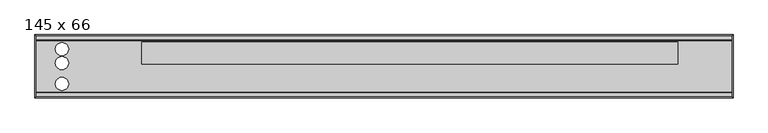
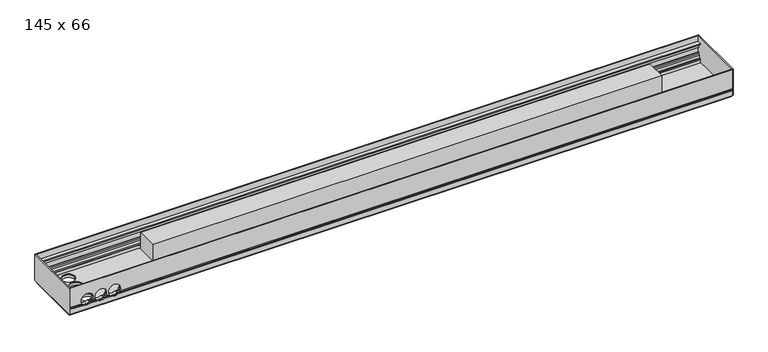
"""IFC4 building model written with IfcOpenShell, lengths in millimetres: proxy geometry, Mohlenhof_Внутрипольный конвектор_QSKM : 145 x 66."""

from ifc_helpers import new_model, si_unit, point, frame, frame_2d, origin, place, context, project, spatial, polyline, circle_curve, ellipse_curve, trimmed, segment, composite_curve, outline, extrude, source, transform, mapped, element, save
from ifc_brep_helpers import plane_surface, revolved_surface, advanced_brep


def proxy_145_x_66_7399c8b9(model_context):
    return source(origin(), model_context, "Body", "SolidModel", [
        advanced_brep(
        [(798.0, -245.0, -48.5473602), (798.0, -243.5, -49.2468216), (798.0, -242.5, -49.2468216), (798.0, -242.5, -46.0008038), (798.0, -240.0, -46.0008038), (798.0, -240.0, -56.5008038), (798.0, -242.5, -56.5008038), (798.0, -242.5, -53.2468216), (798.0, -243.5, -53.2468216), (798.0, -245.0, -53.9462831), (798.0, -245.0, -66.5), (798.0, -241.0, -66.5), (798.0, -241.0, -65.2), (798.0, -243.0, -65.2), (798.0, -243.0, -62.5), (798.0, -232.0, -62.5), (798.0, -232.0, -54.9172677), (798.0, -233.4172677, -53.5), (798.0, -237.0, -53.5), (798.0, -237.0, -45.91), (798.0, -239.0, -43.91), (798.0, -239.0, -39.5), (798.0, -240.0, -39.5), (798.0, -240.0, -43.5), (798.0, -242.4956439, -43.5), (798.0, -242.4956439, -23.0), (798.0, -240.0, -23.0), (798.0, -240.0, -27.0), (798.0, -239.0, -27.0), (798.0, -239.0, -17.0), (798.0, -233.3956439, -17.0), (798.0, -233.3956439, -15.0), (798.0, -243.4, -15.0), (798.0, -243.4, 0.0), (798.0, -245.0, 0.0), (-798.0, -245.0, -48.5473602), (-798.0, -245.0, 0.0), (-798.0, -243.4, 0.0), (-798.0, -243.4, -15.0), (-798.0, -233.3956439, -15.0), (-798.0, -233.3956439, -17.0), (-798.0, -239.0, -17.0), (-798.0, -239.0, -27.0), (-798.0, -240.0, -27.0), (-798.0, -240.0, -23.0), (-798.0, -242.4956439, -23.0), (-798.0, -242.4956439, -43.5), (-798.0, -240.0, -43.5), (-798.0, -240.0, -39.5), (-798.0, -239.0, -39.5), (-798.0, -239.0, -43.91), (-798.0, -237.0, -45.91), (-798.0, -237.0, -53.5), (-798.0, -233.4172677, -53.5), (-798.0, -232.0, -54.9172677), (-798.0, -232.0, -62.5), (-798.0, -243.0, -62.5), (-798.0, -243.0, -65.2), (-798.0, -241.0, -65.2), (-798.0, -241.0, -66.5), (-798.0, -245.0, -66.5), (-798.0, -245.0, -53.9462831), (-798.0, -243.5, -53.2468216), (-798.0, -242.5, -53.2468216), (-798.0, -242.5, -56.5008038), (-798.0, -240.0, -56.5008038), (-798.0, -240.0, -46.0008038), (-798.0, -242.5, -46.0008038), (-798.0, -242.5, -49.2468216), (-798.0, -243.5, -49.2468216), (-678.7585985, -245.0, -48.5473602), (-679.155283, -243.5, -49.2468216), (-770.844717, -243.5, -49.2468216), (-771.2414015, -245.0, -48.5473602), (-738.2414015, -245.0, -48.5473602), (-744.7585985, -245.0, -48.5473602), (-745.155283, -243.5, -49.2468216), (-737.844717, -243.5, -49.2468216), (-705.2414015, -245.0, -48.5473602), (-711.7585985, -245.0, -48.5473602), (-712.155283, -243.5, -49.2468216), (-704.844717, -243.5, -49.2468216), (-679.155283, -242.5, -49.2468216), (-770.844717, -242.5, -49.2468216), (-745.155283, -242.5, -49.2468216), (-737.844717, -242.5, -49.2468216), (-712.155283, -242.5, -49.2468216), (-704.844717, -242.5, -49.2468216), (-677.6911648, -242.5, -46.0008038), (-772.3088352, -242.5, -46.0008038), (-743.6911648, -242.5, -46.0008038), (-739.3088352, -242.5, -46.0008038), (-710.6911648, -242.5, -46.0008038), (-706.3088352, -242.5, -46.0008038), (-677.6911648, -240.0, -46.0008038), (-772.3088352, -240.0, -46.0008038), (-743.6911648, -240.0, -46.0008038), (-739.3088352, -240.0, -46.0008038), (-710.6911648, -240.0, -46.0008038), (-706.3088352, -240.0, -46.0008038), (-767.328032, -242.5, -53.2468216), (-748.671968, -242.5, -53.2468216), (-734.328032, -242.5, -53.2468216), (-715.671968, -242.5, -53.2468216), (-701.328032, -242.5, -53.2468216), (-682.671968, -242.5, -53.2468216), (-682.671968, -243.5, -53.2468216), (-767.328032, -243.5, -53.2468216), (-748.671968, -243.5, -53.2468216), (-734.328032, -243.5, -53.2468216), (-715.671968, -243.5, -53.2468216), (-701.328032, -243.5, -53.2468216), (-683.6280208, -245.0, -53.9462831), (-766.3719792, -245.0, -53.9462831), (-749.6280208, -245.0, -53.9462831), (-733.3719792, -245.0, -53.9462831), (-716.6280208, -245.0, -53.9462831), (-700.3719792, -245.0, -53.9462831), (-764.7064841, -232.0, -54.9172677), (-751.2935159, -232.0, -54.9172677), (-731.7064841, -232.0, -54.9172677), (-718.2935159, -232.0, -54.9172677), (-698.7064841, -232.0, -54.9172677), (-685.2935159, -232.0, -54.9172677), (-683.0, -233.4172677, -53.5), (-767.0, -233.4172677, -53.5), (-749.0, -233.4172677, -53.5), (-734.0, -233.4172677, -53.5), (-716.0, -233.4172677, -53.5), (-701.0, -233.4172677, -53.5), (-683.0, -237.0, -53.5), (-767.0, -237.0, -53.5), (-749.0, -237.0, -53.5), (-734.0, -237.0, -53.5), (-716.0, -237.0, -53.5), (-701.0, -237.0, -53.5), (-677.6629187, -237.0, -45.91), (-772.3370813, -237.0, -45.91), (-743.6629187, -237.0, -45.91), (-739.3370813, -237.0, -45.91), (-710.6629187, -237.0, -45.91), (-706.3370813, -237.0, -45.91), (-677.1948691, -239.0, -43.91), (-772.8051309, -239.0, -43.91), (-743.1948691, -239.0, -43.91), (-739.8051309, -239.0, -43.91), (-710.1948691, -239.0, -43.91), (-706.8051309, -239.0, -43.91), (-677.0, -239.0, -41.5), (-677.1339313, -239.0, -39.5), (-772.8660687, -239.0, -39.5), (-773.0, -239.0, -41.5), (-743.0, -239.0, -41.5), (-743.1339313, -239.0, -39.5), (-739.8660687, -239.0, -39.5), (-740.0, -239.0, -41.5), (-710.0, -239.0, -41.5), (-710.1339313, -239.0, -39.5), (-706.8660687, -239.0, -39.5), (-707.0, -239.0, -41.5), (-677.1339313, -240.0, -39.5), (-772.8660687, -240.0, -39.5), (-743.1339313, -240.0, -39.5), (-739.8660687, -240.0, -39.5), (-710.1339313, -240.0, -39.5), (-706.8660687, -240.0, -39.5), (-677.0, -240.0, -41.5), (-677.1339313, -240.0, -43.5), (-772.8660687, -240.0, -43.5), (-773.0, -240.0, -41.5), (-743.0, -240.0, -41.5), (-743.1339313, -240.0, -43.5), (-739.8660687, -240.0, -43.5), (-740.0, -240.0, -41.5), (-710.0, -240.0, -41.5), (-710.1339313, -240.0, -43.5), (-706.8660687, -240.0, -43.5), (-707.0, -240.0, -41.5), (-677.1339313, -242.4956439, -43.5), (-772.8660687, -242.4956439, -43.5), (-743.1339313, -242.4956439, -43.5), (-739.8660687, -242.4956439, -43.5), (-710.1339313, -242.4956439, -43.5), (-706.8660687, -242.4956439, -43.5), (-677.0, -242.4956439, -41.5), (-707.0, -242.4956439, -41.5), (-710.0, -242.4956439, -41.5), (-740.0, -242.4956439, -41.5), (-743.0, -242.4956439, -41.5), (-773.0, -242.4956439, -41.5), (-761.8405729, -240.0, -27.0), (-754.1594271, -240.0, -27.0), (-728.8405729, -240.0, -27.0), (-721.1594271, -240.0, -27.0), (-695.8405729, -240.0, -27.0), (-688.1594271, -240.0, -27.0), (-688.1594271, -239.0, -27.0), (-761.8405729, -239.0, -27.0), (-754.1594271, -239.0, -27.0), (-728.8405729, -239.0, -27.0), (-721.1594271, -239.0, -27.0), (-695.8405729, -239.0, -27.0), (-773.0, -245.0, -41.5), (-743.0, -245.0, -41.5), (-740.0, -245.0, -41.5), (-710.0, -245.0, -41.5), (-707.0, -245.0, -41.5), (-677.0, -245.0, -41.5)],
        [
            (0, 1),
            (1, 2),
            (2, 3),
            (3, 4),
            (4, 5),
            (5, 6),
            (6, 7),
            (7, 8),
            (8, 9),
            (9, 10),
            (10, 11),
            (11, 12),
            (12, 13),
            (13, 14),
            (14, 15),
            (15, 16),
            (16, 17),
            (17, 18),
            (18, 19),
            (19, 20),
            (20, 21),
            (21, 22),
            (22, 23),
            (23, 24),
            (24, 25),
            (25, 26),
            (26, 27),
            (27, 28),
            (28, 29),
            (29, 30),
            (30, 31),
            (31, 32),
            (32, 33),
            (33, 34),
            (34, 0),
            (35, 36),
            (36, 37),
            (37, 38),
            (38, 39),
            (39, 40),
            (40, 41),
            (41, 42),
            (42, 43),
            (43, 44),
            (44, 45),
            (45, 46),
            (46, 47),
            (47, 48),
            (48, 49),
            (49, 50),
            (50, 51),
            (51, 52),
            (52, 53),
            (53, 54),
            (54, 55),
            (55, 56),
            (56, 57),
            (57, 58),
            (58, 59),
            (59, 60),
            (60, 61),
            (61, 62),
            (62, 63),
            (63, 64),
            (64, 65),
            (65, 66),
            (66, 67),
            (67, 68),
            (68, 69),
            (69, 35),
            (0, 70),
            (70, 71, ellipse_curve(frame((-692.0, -260.1131126, -41.5), z_axis=(0.0, 0.42261826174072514, 0.9063077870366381), x_axis=(0.0, -0.9063077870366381, 0.42261826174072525)), 35.4930237, 15.0)),
            (71, 1),
            (69, 72),
            (72, 73, ellipse_curve(frame((-758.0, -260.1131126, -41.5), z_axis=(0.0, 0.42261826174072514, 0.9063077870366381), x_axis=(0.0, -0.9063077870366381, 0.42261826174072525)), 35.4930237, 15.0)),
            (73, 35),
            (74, 75),
            (75, 76, ellipse_curve(frame((-758.0, -260.1131126, -41.5), z_axis=(0.0, 0.42261826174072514, 0.9063077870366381), x_axis=(0.0, -0.9063077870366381, 0.42261826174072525)), 35.4930237, 15.0)),
            (76, 77),
            (77, 74, ellipse_curve(frame((-725.0, -260.1131126, -41.5), z_axis=(0.0, 0.42261826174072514, 0.9063077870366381), x_axis=(0.0, -0.9063077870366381, 0.42261826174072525)), 35.4930237, 15.0)),
            (78, 79),
            (79, 80, ellipse_curve(frame((-725.0, -260.1131126, -41.5), z_axis=(0.0, 0.42261826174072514, 0.9063077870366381), x_axis=(0.0, -0.9063077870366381, 0.42261826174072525)), 35.4930237, 15.0)),
            (80, 81),
            (81, 78, ellipse_curve(frame((-692.0, -260.1131126, -41.5), z_axis=(0.0, 0.42261826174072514, 0.9063077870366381), x_axis=(0.0, -0.9063077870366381, 0.42261826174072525)), 35.4930237, 15.0)),
            (71, 82),
            (82, 2),
            (68, 83),
            (83, 72),
            (76, 84),
            (84, 85),
            (85, 77),
            (80, 86),
            (86, 87),
            (87, 81),
            (82, 88, circle_curve(frame((-692.0, -242.5, -41.5), z_axis=(0.0, -1.0, 0.0), x_axis=(1.0, 0.0, 0.0)), 15.0)),
            (88, 3),
            (67, 89),
            (89, 83, circle_curve(frame((-758.0, -242.5, -41.5), z_axis=(0.0, -1.0, 0.0), x_axis=(1.0, 0.0, 0.0)), 15.0)),
            (84, 90, circle_curve(frame((-758.0, -242.5, -41.5), z_axis=(0.0, -1.0, 0.0), x_axis=(1.0, 0.0, 0.0)), 15.0)),
            (90, 91),
            (91, 85, circle_curve(frame((-725.0, -242.5, -41.5), z_axis=(0.0, -1.0, 0.0), x_axis=(1.0, 0.0, 0.0)), 15.0)),
            (86, 92, circle_curve(frame((-725.0, -242.5, -41.5), z_axis=(0.0, -1.0, 0.0), x_axis=(1.0, 0.0, 0.0)), 15.0)),
            (92, 93),
            (93, 87, circle_curve(frame((-692.0, -242.5, -41.5), z_axis=(0.0, -1.0, 0.0), x_axis=(1.0, 0.0, 0.0)), 15.0)),
            (88, 94),
            (94, 4),
            (66, 95),
            (95, 89),
            (90, 96),
            (96, 97),
            (97, 91),
            (92, 98),
            (98, 99),
            (99, 93),
            (94, 99, circle_curve(frame((-692.0, -240.0, -41.5), z_axis=(0.0, 1.0, 0.0), x_axis=(1.0, 0.0, 0.0)), 15.0)),
            (98, 97, circle_curve(frame((-725.0, -240.0, -41.5), z_axis=(0.0, 1.0, 0.0), x_axis=(1.0, 0.0, 0.0)), 15.0)),
            (96, 95, circle_curve(frame((-758.0, -240.0, -41.5), z_axis=(0.0, 1.0, 0.0), x_axis=(1.0, 0.0, 0.0)), 15.0)),
            (65, 5),
            (64, 6),
            (63, 100),
            (100, 101, circle_curve(frame((-758.0, -242.5, -41.5), z_axis=(0.0, -1.0, 0.0), x_axis=(1.0, 0.0, 0.0)), 15.0)),
            (101, 102),
            (102, 103, circle_curve(frame((-725.0, -242.5, -41.5), z_axis=(0.0, -1.0, 0.0), x_axis=(1.0, 0.0, 0.0)), 15.0)),
            (103, 104),
            (104, 105, circle_curve(frame((-692.0, -242.5, -41.5), z_axis=(0.0, -1.0, 0.0), x_axis=(1.0, 0.0, 0.0)), 15.0)),
            (105, 7),
            (105, 106),
            (106, 8),
            (62, 107),
            (107, 100),
            (101, 108),
            (108, 109),
            (109, 102),
            (103, 110),
            (110, 111),
            (111, 104),
            (106, 112, ellipse_curve(frame((-692.0, -218.3088597, -41.5), z_axis=(0.0, 0.42261826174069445, -0.9063077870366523), x_axis=(0.0, -0.9063077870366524, -0.42261826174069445)), 35.4930237, 15.0)),
            (112, 9),
            (61, 113),
            (113, 107, ellipse_curve(frame((-758.0, -218.3088597, -41.5), z_axis=(0.0, 0.42261826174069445, -0.9063077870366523), x_axis=(0.0, -0.9063077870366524, -0.42261826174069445)), 35.4930237, 15.0)),
            (108, 114, ellipse_curve(frame((-758.0, -218.3088597, -41.5), z_axis=(0.0, 0.42261826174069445, -0.9063077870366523), x_axis=(0.0, -0.9063077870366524, -0.42261826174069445)), 35.4930237, 15.0)),
            (114, 115),
            (115, 109, ellipse_curve(frame((-725.0, -218.3088597, -41.5), z_axis=(0.0, 0.42261826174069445, -0.9063077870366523), x_axis=(0.0, -0.9063077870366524, -0.42261826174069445)), 35.4930237, 15.0)),
            (110, 116, ellipse_curve(frame((-725.0, -218.3088597, -41.5), z_axis=(0.0, 0.42261826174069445, -0.9063077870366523), x_axis=(0.0, -0.9063077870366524, -0.42261826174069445)), 35.4930237, 15.0)),
            (116, 117),
            (117, 111, ellipse_curve(frame((-692.0, -218.3088597, -41.5), z_axis=(0.0, 0.42261826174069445, -0.9063077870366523), x_axis=(0.0, -0.9063077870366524, -0.42261826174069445)), 35.4930237, 15.0)),
            (112, 117, circle_curve(frame((-692.0, -245.0, -41.5), z_axis=(0.0, 1.0, 0.0), x_axis=(1.0, 0.0, 0.0)), 15.0)),
            (116, 115, circle_curve(frame((-725.0, -245.0, -41.5), z_axis=(0.0, 1.0, 0.0), x_axis=(1.0, 0.0, 0.0)), 15.0)),
            (114, 113, circle_curve(frame((-758.0, -245.0, -41.5), z_axis=(0.0, 1.0, 0.0), x_axis=(1.0, 0.0, 0.0)), 15.0)),
            (60, 10),
            (59, 11),
            (58, 12),
            (57, 13),
            (56, 14),
            (55, 15),
            (54, 118),
            (118, 119, circle_curve(frame((-758.0, -232.0, -41.5), z_axis=(0.0, -1.0, 0.0), x_axis=(1.0, 0.0, 0.0)), 15.0)),
            (119, 120),
            (120, 121, circle_curve(frame((-725.0, -232.0, -41.5), z_axis=(0.0, -1.0, 0.0), x_axis=(1.0, 0.0, 0.0)), 15.0)),
            (121, 122),
            (122, 123, circle_curve(frame((-692.0, -232.0, -41.5), z_axis=(0.0, -1.0, 0.0), x_axis=(1.0, 0.0, 0.0)), 15.0)),
            (123, 16),
            (123, 124, ellipse_curve(frame((-692.0, -245.4172677, -41.5), z_axis=(0.0, -0.7071067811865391, -0.707106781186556), x_axis=(0.0, -0.7071067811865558, 0.7071067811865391)), 21.2132034, 15.0)),
            (124, 17),
            (53, 125),
            (125, 118, ellipse_curve(frame((-758.0, -245.4172677, -41.5), z_axis=(0.0, -0.7071067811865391, -0.707106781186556), x_axis=(0.0, -0.7071067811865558, 0.7071067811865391)), 21.2132034, 15.0)),
            (119, 126, ellipse_curve(frame((-758.0, -245.4172677, -41.5), z_axis=(0.0, -0.7071067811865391, -0.707106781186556), x_axis=(0.0, -0.7071067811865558, 0.7071067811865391)), 21.2132034, 15.0)),
            (126, 127),
            (127, 120, ellipse_curve(frame((-725.0, -245.4172677, -41.5), z_axis=(0.0, -0.7071067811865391, -0.707106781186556), x_axis=(0.0, -0.7071067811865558, 0.7071067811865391)), 21.2132034, 15.0)),
            (121, 128, ellipse_curve(frame((-725.0, -245.4172677, -41.5), z_axis=(0.0, -0.7071067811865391, -0.707106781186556), x_axis=(0.0, -0.7071067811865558, 0.7071067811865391)), 21.2132034, 15.0)),
            (128, 129),
            (129, 122, ellipse_curve(frame((-692.0, -245.4172677, -41.5), z_axis=(0.0, -0.7071067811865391, -0.707106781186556), x_axis=(0.0, -0.7071067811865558, 0.7071067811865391)), 21.2132034, 15.0)),
            (124, 130),
            (130, 18),
            (52, 131),
            (131, 125),
            (126, 132),
            (132, 133),
            (133, 127),
            (128, 134),
            (134, 135),
            (135, 129),
            (130, 136, circle_curve(frame((-692.0, -237.0, -41.5), z_axis=(0.0, -1.0, 0.0), x_axis=(1.0, 0.0, 0.0)), 15.0)),
            (136, 19),
            (51, 137),
            (137, 131, circle_curve(frame((-758.0, -237.0, -41.5), z_axis=(0.0, -1.0, 0.0), x_axis=(1.0, 0.0, 0.0)), 15.0)),
            (132, 138, circle_curve(frame((-758.0, -237.0, -41.5), z_axis=(0.0, -1.0, 0.0), x_axis=(1.0, 0.0, 0.0)), 15.0)),
            (138, 139),
            (139, 133, circle_curve(frame((-725.0, -237.0, -41.5), z_axis=(0.0, -1.0, 0.0), x_axis=(1.0, 0.0, 0.0)), 15.0)),
            (134, 140, circle_curve(frame((-725.0, -237.0, -41.5), z_axis=(0.0, -1.0, 0.0), x_axis=(1.0, 0.0, 0.0)), 15.0)),
            (140, 141),
            (141, 135, circle_curve(frame((-692.0, -237.0, -41.5), z_axis=(0.0, -1.0, 0.0), x_axis=(1.0, 0.0, 0.0)), 15.0)),
            (136, 142, ellipse_curve(frame((-692.0, -241.41, -41.5), z_axis=(0.0, -0.7071067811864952, -0.7071067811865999), x_axis=(0.0, -0.7071067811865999, 0.7071067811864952)), 21.2132034, 15.0)),
            (142, 20),
            (50, 143),
            (143, 137, ellipse_curve(frame((-758.0, -241.41, -41.5), z_axis=(0.0, -0.7071067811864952, -0.7071067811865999), x_axis=(0.0, -0.7071067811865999, 0.7071067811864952)), 21.2132034, 15.0)),
            (138, 144, ellipse_curve(frame((-758.0, -241.41, -41.5), z_axis=(0.0, -0.7071067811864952, -0.7071067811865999), x_axis=(0.0, -0.7071067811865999, 0.7071067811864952)), 21.2132034, 15.0)),
            (144, 145),
            (145, 139, ellipse_curve(frame((-725.0, -241.41, -41.5), z_axis=(0.0, -0.7071067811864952, -0.7071067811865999), x_axis=(0.0, -0.7071067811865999, 0.7071067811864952)), 21.2132034, 15.0)),
            (140, 146, ellipse_curve(frame((-725.0, -241.41, -41.5), z_axis=(0.0, -0.7071067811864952, -0.7071067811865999), x_axis=(0.0, -0.7071067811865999, 0.7071067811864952)), 21.2132034, 15.0)),
            (146, 147),
            (147, 141, ellipse_curve(frame((-692.0, -241.41, -41.5), z_axis=(0.0, -0.7071067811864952, -0.7071067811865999), x_axis=(0.0, -0.7071067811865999, 0.7071067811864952)), 21.2132034, 15.0)),
            (142, 148, circle_curve(frame((-692.0, -239.0, -41.5), z_axis=(0.0, -1.0, 0.0), x_axis=(1.0, 0.0, 0.0)), 15.0)),
            (148, 149, circle_curve(frame((-692.0, -239.0, -41.5), z_axis=(0.0, -1.0, 0.0), x_axis=(1.0, 0.0, 0.0)), 15.0)),
            (149, 21),
            (49, 150),
            (150, 151, circle_curve(frame((-758.0, -239.0, -41.5), z_axis=(0.0, -1.0, 0.0), x_axis=(1.0, 0.0, 0.0)), 15.0)),
            (151, 143, circle_curve(frame((-758.0, -239.0, -41.5), z_axis=(0.0, -1.0, 0.0), x_axis=(1.0, 0.0, 0.0)), 15.0)),
            (144, 152, circle_curve(frame((-758.0, -239.0, -41.5), z_axis=(0.0, -1.0, 0.0), x_axis=(1.0, 0.0, 0.0)), 15.0)),
            (152, 153, circle_curve(frame((-758.0, -239.0, -41.5), z_axis=(0.0, -1.0, 0.0), x_axis=(1.0, 0.0, 0.0)), 15.0)),
            (153, 154),
            (154, 155, circle_curve(frame((-725.0, -239.0, -41.5), z_axis=(0.0, -1.0, 0.0), x_axis=(1.0, 0.0, 0.0)), 15.0)),
            (155, 145, circle_curve(frame((-725.0, -239.0, -41.5), z_axis=(0.0, -1.0, 0.0), x_axis=(1.0, 0.0, 0.0)), 15.0)),
            (146, 156, circle_curve(frame((-725.0, -239.0, -41.5), z_axis=(0.0, -1.0, 0.0), x_axis=(1.0, 0.0, 0.0)), 15.0)),
            (156, 157, circle_curve(frame((-725.0, -239.0, -41.5), z_axis=(0.0, -1.0, 0.0), x_axis=(1.0, 0.0, 0.0)), 15.0)),
            (157, 158),
            (158, 159, circle_curve(frame((-692.0, -239.0, -41.5), z_axis=(0.0, -1.0, 0.0), x_axis=(1.0, 0.0, 0.0)), 15.0)),
            (159, 147, circle_curve(frame((-692.0, -239.0, -41.5), z_axis=(0.0, -1.0, 0.0), x_axis=(1.0, 0.0, 0.0)), 15.0)),
            (149, 160),
            (160, 22),
            (48, 161),
            (161, 150),
            (153, 162),
            (162, 163),
            (163, 154),
            (157, 164),
            (164, 165),
            (165, 158),
            (160, 166, circle_curve(frame((-692.0, -240.0, -41.5), z_axis=(0.0, 1.0, 0.0), x_axis=(1.0, 0.0, 0.0)), 15.0)),
            (166, 167, circle_curve(frame((-692.0, -240.0, -41.5), z_axis=(0.0, 1.0, 0.0), x_axis=(1.0, 0.0, 0.0)), 15.0)),
            (167, 23),
            (47, 168),
            (168, 169, circle_curve(frame((-758.0, -240.0, -41.5), z_axis=(0.0, 1.0, 0.0), x_axis=(1.0, 0.0, 0.0)), 15.0)),
            (169, 161, circle_curve(frame((-758.0, -240.0, -41.5), z_axis=(0.0, 1.0, 0.0), x_axis=(1.0, 0.0, 0.0)), 15.0)),
            (162, 170, circle_curve(frame((-758.0, -240.0, -41.5), z_axis=(0.0, 1.0, 0.0), x_axis=(1.0, 0.0, 0.0)), 15.0)),
            (170, 171, circle_curve(frame((-758.0, -240.0, -41.5), z_axis=(0.0, 1.0, 0.0), x_axis=(1.0, 0.0, 0.0)), 15.0)),
            (171, 172),
            (172, 173, circle_curve(frame((-725.0, -240.0, -41.5), z_axis=(0.0, 1.0, 0.0), x_axis=(1.0, 0.0, 0.0)), 15.0)),
            (173, 163, circle_curve(frame((-725.0, -240.0, -41.5), z_axis=(0.0, 1.0, 0.0), x_axis=(1.0, 0.0, 0.0)), 15.0)),
            (164, 174, circle_curve(frame((-725.0, -240.0, -41.5), z_axis=(0.0, 1.0, 0.0), x_axis=(1.0, 0.0, 0.0)), 15.0)),
            (174, 175, circle_curve(frame((-725.0, -240.0, -41.5), z_axis=(0.0, 1.0, 0.0), x_axis=(1.0, 0.0, 0.0)), 15.0)),
            (175, 176),
            (176, 177, circle_curve(frame((-692.0, -240.0, -41.5), z_axis=(0.0, 1.0, 0.0), x_axis=(1.0, 0.0, 0.0)), 15.0)),
            (177, 165, circle_curve(frame((-692.0, -240.0, -41.5), z_axis=(0.0, 1.0, 0.0), x_axis=(1.0, 0.0, 0.0)), 15.0)),
            (167, 178),
            (178, 24),
            (46, 179),
            (179, 168),
            (171, 180),
            (180, 181),
            (181, 172),
            (175, 182),
            (182, 183),
            (183, 176),
            (178, 184, circle_curve(frame((-692.0, -242.4956439, -41.5), z_axis=(0.0, -1.0, 0.0), x_axis=(1.0, 0.0, 0.0)), 15.0)),
            (184, 185, circle_curve(frame((-692.0, -242.4956439, -41.5), z_axis=(0.0, -1.0, 0.0), x_axis=(1.0, 0.0, 0.0)), 15.0)),
            (185, 183, circle_curve(frame((-692.0, -242.4956439, -41.5), z_axis=(0.0, -1.0, 0.0), x_axis=(1.0, 0.0, 0.0)), 15.0)),
            (182, 186, circle_curve(frame((-725.0, -242.4956439, -41.5), z_axis=(0.0, -1.0, 0.0), x_axis=(1.0, 0.0, 0.0)), 15.0)),
            (186, 187, circle_curve(frame((-725.0, -242.4956439, -41.5), z_axis=(0.0, -1.0, 0.0), x_axis=(1.0, 0.0, 0.0)), 15.0)),
            (187, 181, circle_curve(frame((-725.0, -242.4956439, -41.5), z_axis=(0.0, -1.0, 0.0), x_axis=(1.0, 0.0, 0.0)), 15.0)),
            (180, 188, circle_curve(frame((-758.0, -242.4956439, -41.5), z_axis=(0.0, -1.0, 0.0), x_axis=(1.0, 0.0, 0.0)), 15.0)),
            (188, 189, circle_curve(frame((-758.0, -242.4956439, -41.5), z_axis=(0.0, -1.0, 0.0), x_axis=(1.0, 0.0, 0.0)), 15.0)),
            (189, 179, circle_curve(frame((-758.0, -242.4956439, -41.5), z_axis=(0.0, -1.0, 0.0), x_axis=(1.0, 0.0, 0.0)), 15.0)),
            (45, 25),
            (44, 26),
            (43, 190),
            (190, 191, circle_curve(frame((-758.0, -240.0, -41.5), z_axis=(0.0, 1.0, 0.0), x_axis=(1.0, 0.0, 0.0)), 15.0)),
            (191, 192),
            (192, 193, circle_curve(frame((-725.0, -240.0, -41.5), z_axis=(0.0, 1.0, 0.0), x_axis=(1.0, 0.0, 0.0)), 15.0)),
            (193, 194),
            (194, 195, circle_curve(frame((-692.0, -240.0, -41.5), z_axis=(0.0, 1.0, 0.0), x_axis=(1.0, 0.0, 0.0)), 15.0)),
            (195, 27),
            (195, 196),
            (196, 28),
            (42, 197),
            (197, 190),
            (191, 198),
            (198, 199),
            (199, 192),
            (193, 200),
            (200, 201),
            (201, 194),
            (196, 201, circle_curve(frame((-692.0, -239.0, -41.5), z_axis=(0.0, -1.0, 0.0), x_axis=(1.0, 0.0, 0.0)), 15.0)),
            (200, 199, circle_curve(frame((-725.0, -239.0, -41.5), z_axis=(0.0, -1.0, 0.0), x_axis=(1.0, 0.0, 0.0)), 15.0)),
            (198, 197, circle_curve(frame((-758.0, -239.0, -41.5), z_axis=(0.0, -1.0, 0.0), x_axis=(1.0, 0.0, 0.0)), 15.0)),
            (41, 29),
            (40, 30),
            (39, 31),
            (38, 32),
            (37, 33),
            (36, 34),
            (73, 202, circle_curve(frame((-758.0, -245.0, -41.5), z_axis=(0.0, 1.0, 0.0), x_axis=(1.0, 0.0, 0.0)), 15.0)),
            (202, 203, circle_curve(frame((-758.0, -245.0, -41.5), z_axis=(0.0, 1.0, 0.0), x_axis=(1.0, 0.0, 0.0)), 15.0)),
            (203, 75, circle_curve(frame((-758.0, -245.0, -41.5), z_axis=(0.0, 1.0, 0.0), x_axis=(1.0, 0.0, 0.0)), 15.0)),
            (74, 204, circle_curve(frame((-725.0, -245.0, -41.5), z_axis=(0.0, 1.0, 0.0), x_axis=(1.0, 0.0, 0.0)), 15.0)),
            (204, 205, circle_curve(frame((-725.0, -245.0, -41.5), z_axis=(0.0, 1.0, 0.0), x_axis=(1.0, 0.0, 0.0)), 15.0)),
            (205, 79, circle_curve(frame((-725.0, -245.0, -41.5), z_axis=(0.0, 1.0, 0.0), x_axis=(1.0, 0.0, 0.0)), 15.0)),
            (78, 206, circle_curve(frame((-692.0, -245.0, -41.5), z_axis=(0.0, 1.0, 0.0), x_axis=(1.0, 0.0, 0.0)), 15.0)),
            (206, 207, circle_curve(frame((-692.0, -245.0, -41.5), z_axis=(0.0, 1.0, 0.0), x_axis=(1.0, 0.0, 0.0)), 15.0)),
            (207, 70, circle_curve(frame((-692.0, -245.0, -41.5), z_axis=(0.0, 1.0, 0.0), x_axis=(1.0, 0.0, 0.0)), 15.0)),
            (151, 169),
            (189, 202),
            (203, 188),
            (170, 152),
            (155, 173),
            (187, 204),
            (205, 186),
            (174, 156),
            (159, 177),
            (185, 206),
            (207, 184),
            (166, 148),
        ],
        [
            plane_surface(frame((798.0, -243.0, -62.5), z_axis=(1.0, 0.0, 0.0), x_axis=(0.0, 0.0, 1.0))),
            plane_surface(frame((-798.0, -243.0, -62.5), z_axis=(-1.0, 0.0, 0.0), x_axis=(0.0, 0.0, 1.0))),
            plane_surface(frame((798.0, -245.0, -48.5473602), z_axis=(0.0, -0.42261826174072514, -0.9063077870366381), x_axis=(-1.0, 0.0, 0.0))),
            plane_surface(frame((798.0, -243.5, -49.2468216), z_axis=(0.0, 0.0, -1.0), x_axis=(-1.0, 0.0, 0.0))),
            plane_surface(frame((798.0, -242.5, -49.2468216), z_axis=(0.0, 1.0, 0.0), x_axis=(-1.0, 0.0, 0.0))),
            plane_surface(frame((798.0, -242.5, -46.0008038), z_axis=(0.0, 0.0, -1.0), x_axis=(-1.0, 0.0, 0.0))),
            plane_surface(frame((798.0, -240.0, -46.0008038), z_axis=(0.0, -1.0, 0.0), x_axis=(-1.0, 0.0, 0.0))),
            plane_surface(frame((798.0, -240.0, -56.5008038), z_axis=(0.0, 0.0, 1.0), x_axis=(-1.0, 0.0, 0.0))),
            plane_surface(frame((798.0, -242.5, -56.5008038), z_axis=(0.0, 1.0, 0.0), x_axis=(-1.0, 0.0, 0.0))),
            plane_surface(frame((798.0, -242.5, -53.2468216), z_axis=(0.0, 0.0, 1.0), x_axis=(-1.0, 0.0, 0.0))),
            plane_surface(frame((798.0, -243.5, -53.2468216), z_axis=(0.0, -0.42261826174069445, 0.9063077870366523), x_axis=(-1.0, 0.0, 0.0))),
            plane_surface(frame((798.0, -245.0, -53.9462831), z_axis=(0.0, -1.0, 0.0), x_axis=(-1.0, 0.0, 0.0))),
            plane_surface(frame((798.0, -245.0, -66.5), z_axis=(0.0, 0.0, -1.0), x_axis=(-1.0, 0.0, 0.0))),
            plane_surface(frame((798.0, -241.0, -66.5), z_axis=(0.0, 1.0, 0.0), x_axis=(-1.0, 0.0, 0.0))),
            plane_surface(frame((798.0, -241.0, -65.2), z_axis=(0.0, 0.0, 1.0), x_axis=(-1.0, 0.0, 0.0))),
            plane_surface(frame((798.0, -243.0, -65.2), z_axis=(0.0, 1.0, 0.0), x_axis=(-1.0, 0.0, 0.0))),
            plane_surface(frame((798.0, -243.0, -62.5), z_axis=(0.0, 0.0, -1.0), x_axis=(-1.0, 0.0, 0.0))),
            plane_surface(frame((798.0, -232.0, -62.5), z_axis=(0.0, 1.0, 0.0), x_axis=(-1.0, 0.0, 0.0))),
            plane_surface(frame((798.0, -232.0, -54.9172677), z_axis=(0.0, 0.7071067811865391, 0.707106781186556), x_axis=(-1.0, 0.0, 0.0))),
            plane_surface(frame((798.0, -233.4172677, -53.5), z_axis=(0.0, 0.0, 1.0), x_axis=(-1.0, 0.0, 0.0))),
            plane_surface(frame((798.0, -237.0, -53.5), z_axis=(0.0, 1.0, 0.0), x_axis=(-1.0, 0.0, 0.0))),
            plane_surface(frame((798.0, -237.0, -45.91), z_axis=(0.0, 0.7071067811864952, 0.7071067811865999), x_axis=(-1.0, 0.0, 0.0))),
            plane_surface(frame((798.0, -239.0, -43.91), z_axis=(0.0, 1.0, 0.0), x_axis=(-1.0, 0.0, 0.0))),
            plane_surface(frame((798.0, -239.0, -39.5), z_axis=(0.0, 0.0, 1.0), x_axis=(-1.0, 0.0, 0.0))),
            plane_surface(frame((798.0, -240.0, -39.5), z_axis=(0.0, -1.0, 0.0), x_axis=(-1.0, 0.0, 0.0))),
            plane_surface(frame((798.0, -240.0, -43.5), z_axis=(0.0, 0.0, 1.0), x_axis=(-1.0, 0.0, 0.0))),
            plane_surface(frame((798.0, -242.4956439, -43.5), z_axis=(0.0, 1.0, 0.0), x_axis=(-1.0, 0.0, 0.0))),
            plane_surface(frame((798.0, -242.4956439, -23.0), z_axis=(0.0, 0.0, -1.0), x_axis=(-1.0, 0.0, 0.0))),
            plane_surface(frame((798.0, -240.0, -23.0), z_axis=(0.0, -1.0, 0.0), x_axis=(-1.0, 0.0, 0.0))),
            plane_surface(frame((798.0, -240.0, -27.0), z_axis=(0.0, 0.0, -1.0), x_axis=(-1.0, 0.0, 0.0))),
            plane_surface(frame((798.0, -239.0, -27.0), z_axis=(0.0, 1.0, 0.0), x_axis=(-1.0, 0.0, 0.0))),
            plane_surface(frame((798.0, -239.0, -17.0), z_axis=(0.0, 0.0, -1.0), x_axis=(-1.0, 0.0, 0.0))),
            plane_surface(frame((798.0, -233.3956439, -17.0), z_axis=(0.0, 1.0, 0.0), x_axis=(-1.0, 0.0, 0.0))),
            plane_surface(frame((798.0, -233.3956439, -15.0), z_axis=(0.0, 0.0, 1.0), x_axis=(-1.0, 0.0, 0.0))),
            plane_surface(frame((798.0, -243.4, -15.0), z_axis=(0.0, 1.0, 0.0), x_axis=(-1.0, 0.0, 0.0))),
            plane_surface(frame((798.0, -243.4, 0.0), z_axis=(0.0, 0.0, 1.0), x_axis=(-1.0, 0.0, 0.0))),
            plane_surface(frame((798.0, -245.0, 0.0), z_axis=(0.0, -1.0, 0.0), x_axis=(-1.0, 0.0, 0.0))),
            revolved_surface(polyline([(-743.0, -250.47646346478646, -41.5), (-743.0, -186.14125593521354, -41.5)]), (-758.0, -213.0, -41.5), (0.0, -1.0, 0.0)),
            revolved_surface(polyline([(-743.0, -292.280716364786, -41.5), (-743.0, -226.41000002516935, -41.5)]), (-758.0, -213.0, -41.5), (0.0, -1.0, 0.0)),
            revolved_surface(polyline([(-743.0, -240.0, -41.5), (-743.0, -239.0, -41.5)]), (-758.0, -213.0, -41.5), (0.0, -1.0, 0.0)),
            revolved_surface(polyline([(-743.0, -245.0, -41.5), (-743.0, -242.4956439, -41.5)]), (-758.0, -213.0, -41.5), (0.0, -1.0, 0.0)),
            revolved_surface(polyline([(-710.0, -250.47646346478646, -41.5), (-710.0, -186.14125593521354, -41.5)]), (-725.0, 0.0, -41.5), (0.0, -1.0, 0.0)),
            revolved_surface(polyline([(-710.0, -292.280716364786, -41.5), (-710.0, -226.41000002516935, -41.5)]), (-725.0, 0.0, -41.5), (0.0, -1.0, 0.0)),
            revolved_surface(polyline([(-710.0, -240.0, -41.5), (-710.0, -239.0, -41.5)]), (-725.0, 0.0, -41.5), (0.0, -1.0, 0.0)),
            revolved_surface(polyline([(-710.0, -245.0, -41.5), (-710.0, -242.4956439, -41.5)]), (-725.0, 0.0, -41.5), (0.0, -1.0, 0.0)),
            revolved_surface(polyline([(-677.0, -250.47646346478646, -41.5), (-677.0, -186.14125593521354, -41.5)]), (-692.0, 0.0, -41.5), (0.0, -1.0, 0.0)),
            revolved_surface(polyline([(-677.0, -292.280716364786, -41.5), (-677.0, -226.41000002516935, -41.5)]), (-692.0, 0.0, -41.5), (0.0, -1.0, 0.0)),
            revolved_surface(polyline([(-677.0, -240.0, -41.5), (-677.0, -239.0, -41.5)]), (-692.0, 0.0, -41.5), (0.0, -1.0, 0.0)),
            revolved_surface(polyline([(-677.0, -245.0, -41.5), (-677.0, -242.4956439, -41.5)]), (-692.0, 0.0, -41.5), (0.0, -1.0, 0.0)),
        ],
        [
            (0, [[1, 2, 3, 4, 5, 6, 7, 8, 9, 10, 11, 12, 13, 14, 15, 16, 17, 18, 19, 20, 21, 22, 23, 24, 25, 26, 27, 28, 29, 30, 31, 32, 33, 34, 35]]),
            (1, [[36, 37, 38, 39, 40, 41, 42, 43, 44, 45, 46, 47, 48, 49, 50, 51, 52, 53, 54, 55, 56, 57, 58, 59, 60, 61, 62, 63, 64, 65, 66, 67, 68, 69, 70]]),
            (2, [[-1, 71, 72, 73]]),
            (2, [[-70, 74, 75, 76]]),
            (2, [[77, 78, 79, 80]]),
            (2, [[81, 82, 83, 84]]),
            (3, [[-2, -73, 85, 86]]),
            (3, [[-69, 87, 88, -74]]),
            (3, [[-79, 89, 90, 91]]),
            (3, [[-83, 92, 93, 94]]),
            (4, [[-3, -86, 95, 96]]),
            (4, [[-68, 97, 98, -87]]),
            (4, [[-90, 99, 100, 101]]),
            (4, [[-93, 102, 103, 104]]),
            (5, [[-4, -96, 105, 106]]),
            (5, [[-67, 107, 108, -97]]),
            (5, [[-100, 109, 110, 111]]),
            (5, [[-103, 112, 113, 114]]),
            (6, [[-5, -106, 115, -113, 116, -110, 117, -107, -66, 118]]),
            (7, [[-6, -118, -65, 119]]),
            (8, [[-7, -119, -64, 120, 121, 122, 123, 124, 125, 126]]),
            (9, [[-8, -126, 127, 128]]),
            (9, [[-63, 129, 130, -120]]),
            (9, [[-122, 131, 132, 133]]),
            (9, [[-124, 134, 135, 136]]),
            (10, [[-9, -128, 137, 138]]),
            (10, [[-62, 139, 140, -129]]),
            (10, [[-132, 141, 142, 143]]),
            (10, [[-135, 144, 145, 146]]),
            (11, [[-10, -138, 147, -145, 148, -142, 149, -139, -61, 150]]),
            (12, [[-11, -150, -60, 151]]),
            (13, [[-12, -151, -59, 152]]),
            (14, [[-13, -152, -58, 153]]),
            (15, [[-14, -153, -57, 154]]),
            (16, [[-15, -154, -56, 155]]),
            (17, [[-16, -155, -55, 156, 157, 158, 159, 160, 161, 162]]),
            (18, [[-17, -162, 163, 164]]),
            (18, [[-54, 165, 166, -156]]),
            (18, [[-158, 167, 168, 169]]),
            (18, [[-160, 170, 171, 172]]),
            (19, [[-18, -164, 173, 174]]),
            (19, [[-53, 175, 176, -165]]),
            (19, [[-168, 177, 178, 179]]),
            (19, [[-171, 180, 181, 182]]),
            (20, [[-19, -174, 183, 184]]),
            (20, [[-52, 185, 186, -175]]),
            (20, [[-178, 187, 188, 189]]),
            (20, [[-181, 190, 191, 192]]),
            (21, [[-20, -184, 193, 194]]),
            (21, [[-51, 195, 196, -185]]),
            (21, [[-188, 197, 198, 199]]),
            (21, [[-191, 200, 201, 202]]),
            (22, [[-21, -194, 203, 204, 205]]),
            (22, [[-50, 206, 207, 208, -195]]),
            (22, [[-198, 209, 210, 211, 212, 213]]),
            (22, [[-201, 214, 215, 216, 217, 218]]),
            (23, [[-22, -205, 219, 220]]),
            (23, [[-49, 221, 222, -206]]),
            (23, [[-211, 223, 224, 225]]),
            (23, [[-216, 226, 227, 228]]),
            (24, [[-23, -220, 229, 230, 231]]),
            (24, [[-48, 232, 233, 234, -221]]),
            (24, [[-224, 235, 236, 237, 238, 239]]),
            (24, [[-227, 240, 241, 242, 243, 244]]),
            (25, [[-24, -231, 245, 246]]),
            (25, [[-47, 247, 248, -232]]),
            (25, [[-237, 249, 250, 251]]),
            (25, [[-242, 252, 253, 254]]),
            (26, [[-25, -246, 255, 256, 257, -253, 258, 259, 260, -250, 261, 262, 263, -247, -46, 264]]),
            (27, [[-26, -264, -45, 265]]),
            (28, [[-27, -265, -44, 266, 267, 268, 269, 270, 271, 272]]),
            (29, [[-28, -272, 273, 274]]),
            (29, [[-43, 275, 276, -266]]),
            (29, [[-268, 277, 278, 279]]),
            (29, [[-270, 280, 281, 282]]),
            (30, [[-29, -274, 283, -281, 284, -278, 285, -275, -42, 286]]),
            (31, [[-30, -286, -41, 287]]),
            (32, [[-31, -287, -40, 288]]),
            (33, [[-32, -288, -39, 289]]),
            (34, [[-33, -289, -38, 290]]),
            (35, [[-34, -290, -37, 291]]),
            (36, [[-35, -291, -36, -76, 292, 293, 294, -77, 295, 296, 297, -81, 298, 299, 300, -71]]),
            (37, [[-121, -130, -140, -149, -141, -131]]),
            (38, [[301, -233, -248, -263, 302, -292, -75, -88, -98, -108, -117, -109, -99, -89, -78, -294, 303, -261, -249, -236, 304, -209, -197, -187, -177, -167, -157, -166, -176, -186, -196, -208]]),
            (39, [[-267, -276, -285, -277]]),
            (39, [[-301, -207, -222, -234]]),
            (40, [[-302, -262, -303, -293]]),
            (39, [[-304, -235, -223, -210]]),
            (41, [[-123, -133, -143, -148, -144, -134]]),
            (42, [[305, -238, -251, -260, 306, -295, -80, -91, -101, -111, -116, -112, -102, -92, -82, -297, 307, -258, -252, -241, 308, -214, -200, -190, -180, -170, -159, -169, -179, -189, -199, -213]]),
            (43, [[-269, -279, -284, -280]]),
            (43, [[-305, -212, -225, -239]]),
            (44, [[-306, -259, -307, -296]]),
            (43, [[-308, -240, -226, -215]]),
            (45, [[-125, -136, -146, -147, -137, -127]]),
            (46, [[309, -243, -254, -257, 310, -298, -84, -94, -104, -114, -115, -105, -95, -85, -72, -300, 311, -255, -245, -230, 312, -203, -193, -183, -173, -163, -161, -172, -182, -192, -202, -218]]),
            (47, [[-271, -282, -283, -273]]),
            (47, [[-309, -217, -228, -244]]),
            (48, [[-310, -256, -311, -299]]),
            (47, [[-312, -229, -219, -204]]),
        ],
    ),
        extrude(outline(polyline([(-100.0, -48.5473602), (-101.5, -49.2468216), (-102.5, -49.2468216), (-102.5, -46.0008038), (-105.0, -46.0008038), (-105.0, -56.5008038), (-102.5, -56.5008038), (-102.5, -53.2468216), (-101.5, -53.2468216), (-100.0, -53.9462831), (-100.0, -66.5), (-104.0, -66.5), (-104.0, -65.2), (-102.0, -65.2), (-102.0, -62.5), (-113.0, -62.5), (-113.0, -54.9172677), (-111.5827323, -53.5), (-108.0, -53.5), (-108.0, -45.91), (-106.0, -43.91), (-106.0, -39.5), (-105.0, -39.5), (-105.0, -43.5), (-102.5043561, -43.5), (-102.5043561, -23.0), (-105.0, -23.0), (-105.0, -27.0), (-106.0, -27.0), (-106.0, -17.0), (-111.6043561, -17.0), (-111.6043561, -15.0), (-101.6, -15.0), (-101.6, 0.0), (-100.0, 0.0), (-100.0, -48.5473602)])), frame((-798.0, 0.0, 0.0), z_axis=(1.0, 0.0, 0.0), x_axis=(0.0, 1.0, 0.0)), (0.0, 0.0, 1.0), 1596.0),
        extrude(outline(polyline([(798.0, -104.499991), (798.0, -240.5), (-798.0, -240.5), (-798.0, -104.499991), (798.0, -104.499991)]), holes=[composite_curve([segment(trimmed(circle_curve(frame_2d((-738.0, -133.0)), 15.0), [point((-753.0, -133.0))], [point((-723.0, -133.0))], True, "CARTESIAN"), True, "CONTINUOUS"), segment(trimmed(circle_curve(frame_2d((-738.0, -133.0)), 15.0), [point((-723.0, -133.0))], [point((-753.0, -133.0))], True, "CARTESIAN"), True, "CONTINUOUS")], self_intersect=False), composite_curve([segment(trimmed(circle_curve(frame_2d((-738.0, -165.0)), 15.0), [point((-753.0, -165.0))], [point((-723.0, -165.0))], True, "CARTESIAN"), True, "CONTINUOUS"), segment(trimmed(circle_curve(frame_2d((-738.0, -165.0)), 15.0), [point((-723.0, -165.0))], [point((-753.0, -165.0))], True, "CARTESIAN"), True, "CONTINUOUS")], self_intersect=False), composite_curve([segment(trimmed(circle_curve(frame_2d((-738.0, -213.0)), 15.0), [point((-753.0, -213.0))], [point((-723.0, -213.0))], True, "CARTESIAN"), True, "CONTINUOUS"), segment(trimmed(circle_curve(frame_2d((-738.0, -213.0)), 15.0), [point((-723.0, -213.0))], [point((-753.0, -213.0))], True, "CARTESIAN"), True, "CONTINUOUS")], self_intersect=False)]), frame((0.0, 0.0, -71.5), z_axis=(0.0, 0.0, 1.0), x_axis=(1.0, 0.0, 0.0)), (0.0, 0.0, 1.0), 6.3),
        extrude(outline(polyline([(798.0, -102.0), (798.0, -243.0), (-798.0, -243.0), (-798.0, -102.0), (798.0, -102.0)]), holes=[composite_curve([segment(trimmed(circle_curve(frame_2d((-738.0, -133.0)), 15.0), [point((-753.0, -133.0))], [point((-723.0, -133.0))], True, "CARTESIAN"), True, "CONTINUOUS"), segment(trimmed(circle_curve(frame_2d((-738.0, -133.0)), 15.0), [point((-723.0, -133.0))], [point((-753.0, -133.0))], True, "CARTESIAN"), True, "CONTINUOUS")], self_intersect=False), composite_curve([segment(trimmed(circle_curve(frame_2d((-738.0, -165.0)), 15.0), [point((-753.0, -165.0))], [point((-723.0, -165.0))], True, "CARTESIAN"), True, "CONTINUOUS"), segment(trimmed(circle_curve(frame_2d((-738.0, -165.0)), 15.0), [point((-723.0, -165.0))], [point((-753.0, -165.0))], True, "CARTESIAN"), True, "CONTINUOUS")], self_intersect=False), composite_curve([segment(trimmed(circle_curve(frame_2d((-738.0, -213.0)), 15.0), [point((-753.0, -213.0))], [point((-723.0, -213.0))], True, "CARTESIAN"), True, "CONTINUOUS"), segment(trimmed(circle_curve(frame_2d((-738.0, -213.0)), 15.0), [point((-723.0, -213.0))], [point((-753.0, -213.0))], True, "CARTESIAN"), True, "CONTINUOUS")], self_intersect=False)]), frame((0.0, 0.0, -65.2), z_axis=(0.0, 0.0, 1.0), x_axis=(1.0, 0.0, 0.0)), (0.0, 0.0, 1.0), 2.7),
        extrude(outline(polyline([(673.0, -117.0), (673.0, -167.0), (-555.0, -167.0), (-555.0, -117.0), (673.0, -117.0)])), frame((0.0, 0.0, -62.5), z_axis=(0.0, 0.0, 1.0), x_axis=(1.0, 0.0, 0.0)), (0.0, 0.0, 1.0), 43.0),
        extrude(outline(polyline([(800.0, -245.0), (798.0, -245.0), (798.0, -100.0), (800.0, -100.0), (800.0, -245.0)])), frame((0.0, 0.0, -66.5), z_axis=(0.0, 0.0, 1.0), x_axis=(1.0, 0.0, 0.0)), (0.0, 0.0, 1.0), 66.5),
        extrude(outline(polyline([(-798.0, -100.0), (-798.0, -245.0), (-800.0, -245.0), (-800.0, -100.0), (-798.0, -100.0)])), frame((0.0, 0.0, -66.5), z_axis=(0.0, 0.0, 1.0), x_axis=(1.0, 0.0, 0.0)), (0.0, 0.0, 1.0), 66.5),
    ])


if __name__ == "__main__":
    model = new_model("IFC4")
    model_context = context("Model", 3, world=origin())
    ifc_project = project(units=[si_unit("LENGTHUNIT", "METRE", prefix="MILLI")], contexts=[model_context])
    site = spatial("IfcSite", under=ifc_project)
    building = spatial("IfcBuilding", under=site)
    placement = place(None, origin())
    proxy_145_x_66_shape = proxy_145_x_66_7399c8b9(model_context)
    element("IfcBuildingElementProxy", 1, Name="Mohlenhof_Внутрипольный конвектор_QSKM : 145 x 66", ObjectType="Mohlenhof_Внутрипольный конвектор_QSKM : 145 x 66", at=placement, inside=building, context=model_context, shape_type="MappedRepresentation", body=[
        mapped(proxy_145_x_66_shape, transform((0.0, 0.0, 0.0), x_axis=(1.0, 0.0, 0.0), y_axis=(0.0, 1.0, 0.0), z_axis=(0.0, 0.0, 1.0))),
    ])
    save(model, "model.ifc")
